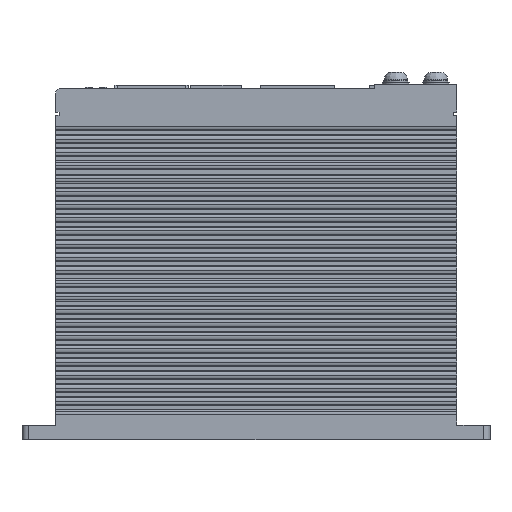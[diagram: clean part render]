
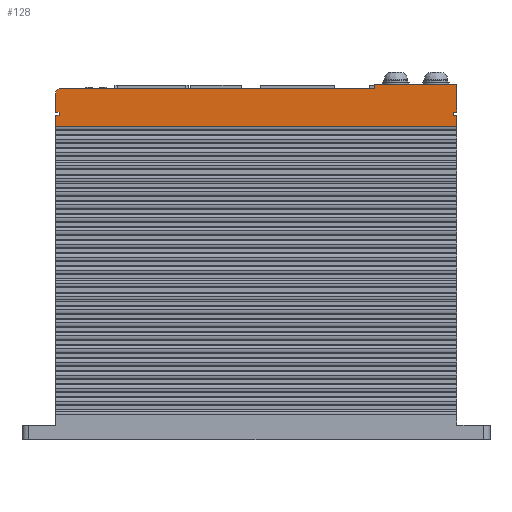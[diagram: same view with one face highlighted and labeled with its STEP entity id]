
A CAD part, left-side view. The second image highlights one B-rep face of the part: STEP entity #128.
In plain terms, the highlighted planar face has unit normal (-1, 0, 0).
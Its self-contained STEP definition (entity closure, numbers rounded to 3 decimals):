
#128 = ADVANCED_FACE( '', ( #1707 ), #1708, .F. );
#1707 = FACE_OUTER_BOUND( '', #4994, .T. );
#1708 = PLANE( '', #4995 );
#4994 = EDGE_LOOP( '', ( #8714, #8715, #8716, #8717, #8718, #8719, #8720, #8721, #8722, #8723, #8724, #8725, #8726, #8727, #8728 ) );
#4995 = AXIS2_PLACEMENT_3D( '', #8729, #8730, #8731 );
#8714 = ORIENTED_EDGE( '', *, *, #20602, .F. );
#8715 = ORIENTED_EDGE( '', *, *, #20603, .T. );
#8716 = ORIENTED_EDGE( '', *, *, #20604, .F. );
#8717 = ORIENTED_EDGE( '', *, *, #20605, .F. );
#8718 = ORIENTED_EDGE( '', *, *, #20606, .F. );
#8719 = ORIENTED_EDGE( '', *, *, #20607, .T. );
#8720 = ORIENTED_EDGE( '', *, *, #20608, .T. );
#8721 = ORIENTED_EDGE( '', *, *, #20609, .F. );
#8722 = ORIENTED_EDGE( '', *, *, #20610, .F. );
#8723 = ORIENTED_EDGE( '', *, *, #20611, .F. );
#8724 = ORIENTED_EDGE( '', *, *, #20612, .F. );
#8725 = ORIENTED_EDGE( '', *, *, #20594, .F. );
#8726 = ORIENTED_EDGE( '', *, *, #20568, .F. );
#8727 = ORIENTED_EDGE( '', *, *, #20510, .F. );
#8728 = ORIENTED_EDGE( '', *, *, #20494, .F. );
#8729 = CARTESIAN_POINT( '', ( -17.45, 120., 106.2 ) );
#8730 = DIRECTION( '', ( 1., 0., 0. ) );
#8731 = DIRECTION( '', ( 0., 0., -1. ) );
#20494 = EDGE_CURVE( '', #24414, #24416, #24417, .T. );
#20510 = EDGE_CURVE( '', #24416, #24443, #24445, .T. );
#20568 = EDGE_CURVE( '', #24443, #24548, #24549, .T. );
#20594 = EDGE_CURVE( '', #24548, #24597, #24598, .T. );
#20602 = EDGE_CURVE( '', #24609, #24414, #24610, .T. );
#20603 = EDGE_CURVE( '', #24609, #24611, #24612, .T. );
#20604 = EDGE_CURVE( '', #24613, #24611, #24614, .T. );
#20605 = EDGE_CURVE( '', #24615, #24613, #24616, .T. );
#20606 = EDGE_CURVE( '', #24617, #24615, #24618, .T. );
#20607 = EDGE_CURVE( '', #24617, #24619, #24620, .T. );
#20608 = EDGE_CURVE( '', #24619, #24621, #24622, .T. );
#20609 = EDGE_CURVE( '', #24623, #24621, #24624, .T. );
#20610 = EDGE_CURVE( '', #24625, #24623, #24626, .T. );
#20611 = EDGE_CURVE( '', #24627, #24625, #24628, .T. );
#20612 = EDGE_CURVE( '', #24597, #24627, #24629, .T. );
#24414 = VERTEX_POINT( '', #30948 );
#24416 = VERTEX_POINT( '', #30951 );
#24417 = LINE( '', #30952, #30953 );
#24443 = VERTEX_POINT( '', #30991 );
#24445 = LINE( '', #30994, #30995 );
#24548 = VERTEX_POINT( '', #31136 );
#24549 = LINE( '', #31137, #31138 );
#24597 = VERTEX_POINT( '', #31208 );
#24598 = LINE( '', #31209, #31210 );
#24609 = VERTEX_POINT( '', #31227 );
#24610 = LINE( '', #31228, #31229 );
#24611 = VERTEX_POINT( '', #31230 );
#24612 = LINE( '', #31231, #31232 );
#24613 = VERTEX_POINT( '', #31233 );
#24614 = LINE( '', #31234, #31235 );
#24615 = VERTEX_POINT( '', #31236 );
#24616 = LINE( '', #31237, #31238 );
#24617 = VERTEX_POINT( '', #31239 );
#24618 = LINE( '', #31240, #31241 );
#24619 = VERTEX_POINT( '', #31242 );
#24620 = LINE( '', #31243, #31244 );
#24621 = VERTEX_POINT( '', #31245 );
#24622 = LINE( '', #31246, #31247 );
#24623 = VERTEX_POINT( '', #31248 );
#24624 = LINE( '', #31249, #31250 );
#24625 = VERTEX_POINT( '', #31251 );
#24626 = LINE( '', #31252, #31253 );
#24627 = VERTEX_POINT( '', #31254 );
#24628 = LINE( '', #31255, #31256 );
#24629 = LINE( '', #31257, #31258 );
#30948 = CARTESIAN_POINT( '', ( -17.45, 119., 105. ) );
#30951 = CARTESIAN_POINT( '', ( -17.45, 24.55, 105. ) );
#30952 = CARTESIAN_POINT( '', ( -17.45, 120., 105. ) );
#30953 = VECTOR( '', #40504, 1000. );
#30991 = CARTESIAN_POINT( '', ( -17.45, 24.55, 106.2 ) );
#30994 = CARTESIAN_POINT( '', ( -17.45, 24.55, 105. ) );
#30995 = VECTOR( '', #40524, 1000. );
#31136 = CARTESIAN_POINT( '', ( -17.45, 0., 106.2 ) );
#31137 = CARTESIAN_POINT( '', ( -17.45, 120., 106.2 ) );
#31138 = VECTOR( '', #40620, 1000. );
#31208 = CARTESIAN_POINT( '', ( -17.45, 0., 98.01 ) );
#31209 = CARTESIAN_POINT( '', ( -17.45, 0., 106.2 ) );
#31210 = VECTOR( '', #40652, 1000. );
#31227 = CARTESIAN_POINT( '', ( -17.45, 120., 104. ) );
#31228 = CARTESIAN_POINT( '', ( -17.45, 118.9, 105.1 ) );
#31229 = VECTOR( '', #40662, 1000. );
#31230 = CARTESIAN_POINT( '', ( -17.45, 120., 98.01 ) );
#31231 = CARTESIAN_POINT( '', ( -17.45, 120., 106.2 ) );
#31232 = VECTOR( '', #40663, 1000. );
#31233 = CARTESIAN_POINT( '', ( -17.45, 119., 98.01 ) );
#31234 = CARTESIAN_POINT( '', ( -17.45, 120., 98.01 ) );
#31235 = VECTOR( '', #40664, 1000. );
#31236 = CARTESIAN_POINT( '', ( -17.45, 119., 97.08 ) );
#31237 = CARTESIAN_POINT( '', ( -17.45, 119., 106.2 ) );
#31238 = VECTOR( '', #40665, 1000. );
#31239 = CARTESIAN_POINT( '', ( -17.45, 120., 97.08 ) );
#31240 = CARTESIAN_POINT( '', ( -17.45, 120., 97.08 ) );
#31241 = VECTOR( '', #40666, 1000. );
#31242 = CARTESIAN_POINT( '', ( -17.45, 120., 93.78 ) );
#31243 = CARTESIAN_POINT( '', ( -17.45, 120., 106.2 ) );
#31244 = VECTOR( '', #40667, 1000. );
#31245 = CARTESIAN_POINT( '', ( -17.45, 0., 93.78 ) );
#31246 = CARTESIAN_POINT( '', ( -17.45, 120., 93.78 ) );
#31247 = VECTOR( '', #40668, 1000. );
#31248 = CARTESIAN_POINT( '', ( -17.45, 0., 97.08 ) );
#31249 = CARTESIAN_POINT( '', ( -17.45, 0., 106.2 ) );
#31250 = VECTOR( '', #40669, 1000. );
#31251 = CARTESIAN_POINT( '', ( -17.45, 1., 97.08 ) );
#31252 = CARTESIAN_POINT( '', ( -17.45, 120., 97.08 ) );
#31253 = VECTOR( '', #40670, 1000. );
#31254 = CARTESIAN_POINT( '', ( -17.45, 1., 98.01 ) );
#31255 = CARTESIAN_POINT( '', ( -17.45, 1., 106.2 ) );
#31256 = VECTOR( '', #40671, 1000. );
#31257 = CARTESIAN_POINT( '', ( -17.45, 120., 98.01 ) );
#31258 = VECTOR( '', #40672, 1000. );
#40504 = DIRECTION( '', ( 0., -1., 0. ) );
#40524 = DIRECTION( '', ( 0., 0., 1. ) );
#40620 = DIRECTION( '', ( 0., -1., 0. ) );
#40652 = DIRECTION( '', ( 0., 0., -1. ) );
#40662 = DIRECTION( '', ( 0., -0.707, 0.707 ) );
#40663 = DIRECTION( '', ( 0., 0., -1. ) );
#40664 = DIRECTION( '', ( 0., 1., 0. ) );
#40665 = DIRECTION( '', ( 0., 0., 1. ) );
#40666 = DIRECTION( '', ( 0., -1., 0. ) );
#40667 = DIRECTION( '', ( 0., 0., -1. ) );
#40668 = DIRECTION( '', ( 0., -1., 0. ) );
#40669 = DIRECTION( '', ( 0., 0., -1. ) );
#40670 = DIRECTION( '', ( 0., -1., 0. ) );
#40671 = DIRECTION( '', ( 0., 0., -1. ) );
#40672 = DIRECTION( '', ( 0., 1., 0. ) );
